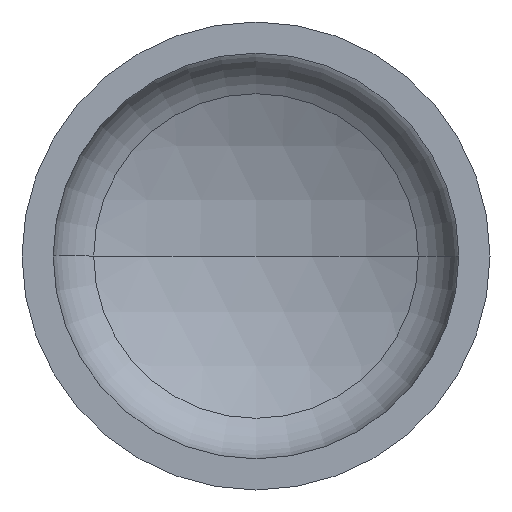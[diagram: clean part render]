
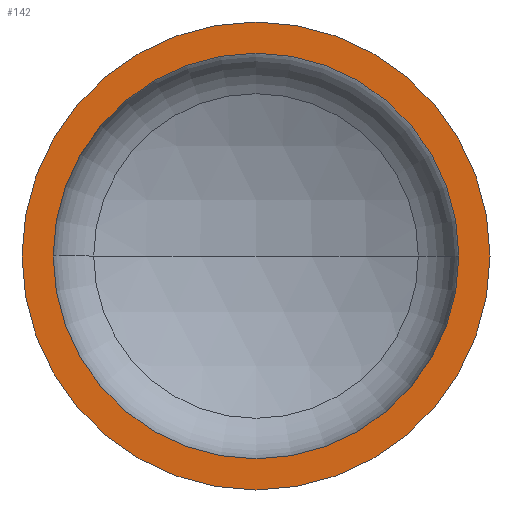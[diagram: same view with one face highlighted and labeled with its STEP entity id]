
A CAD part, front view. The second image highlights one B-rep face of the part: STEP entity #142.
In plain terms, the highlighted planar face has unit normal (0, -1, 0).
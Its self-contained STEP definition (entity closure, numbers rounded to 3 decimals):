
#10 = AXIS2_PLACEMENT_3D ( 'NONE', #353, #357, #258 ) ;
#15 = EDGE_LOOP ( 'NONE', ( #79, #134 ) ) ;
#24 = VERTEX_POINT ( 'NONE', #245 ) ;
#26 = CARTESIAN_POINT ( 'NONE',  ( -900., 0., 0. ) ) ;
#30 = VERTEX_POINT ( 'NONE', #278 ) ;
#33 = ORIENTED_EDGE ( 'NONE', *, *, #90, .F. ) ;
#35 = AXIS2_PLACEMENT_3D ( 'NONE', #26, #399, #358 ) ;
#55 = EDGE_LOOP ( 'NONE', ( #33, #132 ) ) ;
#60 = AXIS2_PLACEMENT_3D ( 'NONE', #343, #342, #341 ) ;
#65 = AXIS2_PLACEMENT_3D ( 'NONE', #192, #195, #331 ) ;
#79 = ORIENTED_EDGE ( 'NONE', *, *, #368, .T. ) ;
#86 = EDGE_CURVE ( 'NONE', #24, #157, #218, .T. ) ;
#90 = EDGE_CURVE ( 'NONE', #126, #30, #211, .T. ) ;
#126 = VERTEX_POINT ( 'NONE', #304 ) ;
#132 = ORIENTED_EDGE ( 'NONE', *, *, #322, .F. ) ;
#134 = ORIENTED_EDGE ( 'NONE', *, *, #86, .T. ) ;
#137 = DIRECTION ( 'NONE',  ( 1., 0., 0. ) ) ;
#142 = ADVANCED_FACE ( 'NONE', ( #379, #316 ), #377, .F. ) ;
#157 = VERTEX_POINT ( 'NONE', #179 ) ;
#179 = CARTESIAN_POINT ( 'NONE',  ( 900., 0., 0. ) ) ;
#180 = CIRCLE ( 'NONE', #10, 780. ) ;
#192 = CARTESIAN_POINT ( 'NONE',  ( 0., 0., 0. ) ) ;
#195 = DIRECTION ( 'NONE',  ( 0., -1., 0. ) ) ;
#211 = CIRCLE ( 'NONE', #60, 780. ) ;
#218 = CIRCLE ( 'NONE', #65, 900. ) ;
#245 = CARTESIAN_POINT ( 'NONE',  ( -900., 0., 0. ) ) ;
#249 = DIRECTION ( 'NONE',  ( 0., -1., 0. ) ) ;
#258 = DIRECTION ( 'NONE',  ( 1., 0., 0. ) ) ;
#278 = CARTESIAN_POINT ( 'NONE',  ( -780., 0., 0. ) ) ;
#304 = CARTESIAN_POINT ( 'NONE',  ( 780., 0., 0. ) ) ;
#314 = AXIS2_PLACEMENT_3D ( 'NONE', #388, #249, #137 ) ;
#316 = FACE_OUTER_BOUND ( 'NONE', #15, .T. ) ;
#322 = EDGE_CURVE ( 'NONE', #30, #126, #180, .T. ) ;
#331 = DIRECTION ( 'NONE',  ( 1., 0., 0. ) ) ;
#341 = DIRECTION ( 'NONE',  ( 1., 0., 0. ) ) ;
#342 = DIRECTION ( 'NONE',  ( 0., -1., 0. ) ) ;
#343 = CARTESIAN_POINT ( 'NONE',  ( 0., 0., 0. ) ) ;
#353 = CARTESIAN_POINT ( 'NONE',  ( 0., 0., 0. ) ) ;
#357 = DIRECTION ( 'NONE',  ( 0., -1., 0. ) ) ;
#358 = DIRECTION ( 'NONE',  ( -1., 0., 0. ) ) ;
#368 = EDGE_CURVE ( 'NONE', #157, #24, #398, .T. ) ;
#377 = PLANE ( 'NONE',  #35 ) ;
#379 = FACE_BOUND ( 'NONE', #55, .T. ) ;
#388 = CARTESIAN_POINT ( 'NONE',  ( 0., 0., 0. ) ) ;
#398 = CIRCLE ( 'NONE', #314, 900. ) ;
#399 = DIRECTION ( 'NONE',  ( 0., 1., 0. ) ) ;
